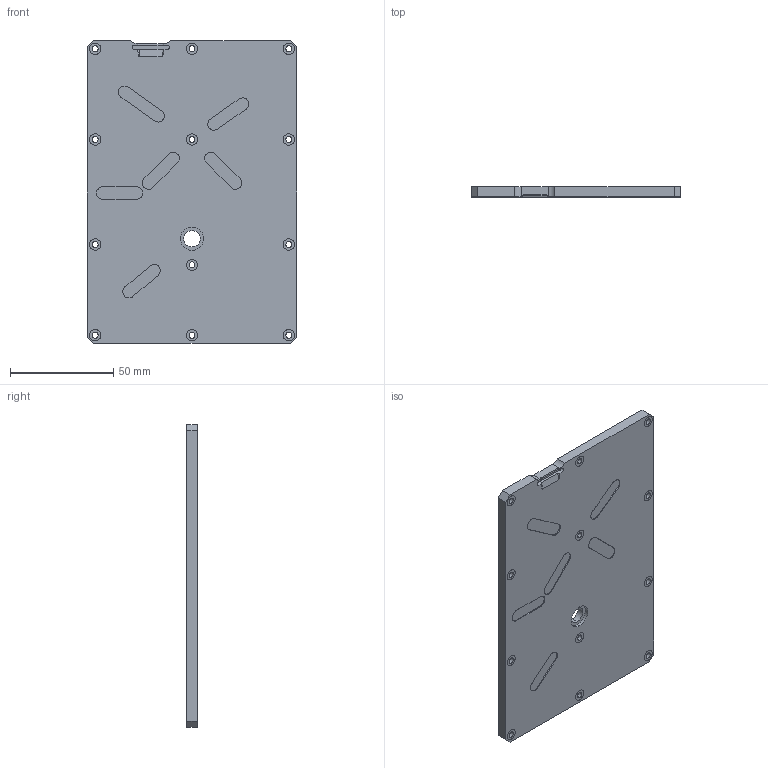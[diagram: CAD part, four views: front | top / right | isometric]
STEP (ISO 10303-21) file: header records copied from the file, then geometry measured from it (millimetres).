
FILE_DESCRIPTION (( 'STEP AP214' ), '1' );
FILE_NAME ('COVER - COMBO SURROGATE - R10 - 10-01-24.STEP', '2024-10-02T03:19:59', ( '' ), ( '' ), 'SwSTEP 2.0', 'SolidWorks 2022', '' );
FILE_SCHEMA (( 'AUTOMOTIVE_DESIGN' ));
Length unit declared in the file: millimetre
Products named in the file (1): COVER - COMBO SURROGATE - R10 - 10-01-24
Bounding box: 101.6 x 5.08 x 147 mm (x, y, z)
Volume: 73988 mm3; surface area: 33140.8 mm2
Topology: 1 solids, 1 shells, 137 faces, 334 edges, 230 vertices
Faces by surface type: cylinder 75, plane 60, bspline 2
Entity records: 4271 total; most frequent: CARTESIAN_POINT 774, DIRECTION 766, ORIENTED_EDGE 668, EDGE_CURVE 334, AXIS2_PLACEMENT_3D 306, VERTEX_POINT 230, EDGE_LOOP 194, CIRCLE 170
